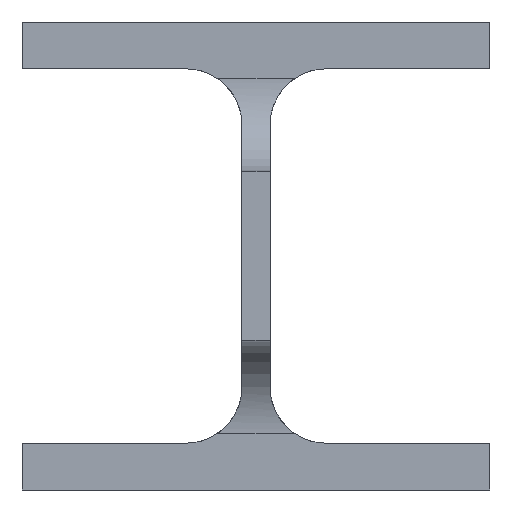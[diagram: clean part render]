
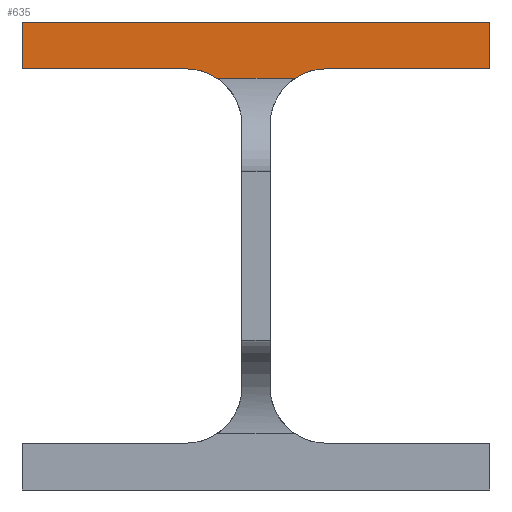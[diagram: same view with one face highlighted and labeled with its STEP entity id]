
A CAD part, front view. The second image highlights one B-rep face of the part: STEP entity #635.
In plain terms, the highlighted planar face has unit normal (0, -1, 0).
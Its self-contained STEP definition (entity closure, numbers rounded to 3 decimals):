
#116 = CARTESIAN_POINT ( 'NONE',  ( -8.367, 52., 5158. ) ) ;
#137 = VECTOR ( 'NONE', #947, 1000. ) ;
#211 = EDGE_CURVE ( 'NONE', #1952, #481, #2245, .T. ) ;
#236 = CARTESIAN_POINT ( 'NONE',  ( 50., 52., 5170. ) ) ;
#248 = PLANE ( 'NONE',  #2399 ) ;
#302 = VECTOR ( 'NONE', #1025, 1000. ) ;
#360 = CIRCLE ( 'NONE', #942, 12. ) ;
#412 = CARTESIAN_POINT ( 'NONE',  ( 6000., 52., 5158. ) ) ;
#446 = CARTESIAN_POINT ( 'NONE',  ( -50., 52., 5160. ) ) ;
#481 = VERTEX_POINT ( 'NONE', #116 ) ;
#488 = FACE_OUTER_BOUND ( 'NONE', #814, .T. ) ;
#635 = ADVANCED_FACE ( 'NONE', ( #488 ), #248, .T. ) ;
#699 = DIRECTION ( 'NONE',  ( 0., 1., 0. ) ) ;
#701 = ORIENTED_EDGE ( 'NONE', *, *, #211, .F. ) ;
#744 = DIRECTION ( 'NONE',  ( 0., 0., 1. ) ) ;
#764 = VERTEX_POINT ( 'NONE', #2483 ) ;
#803 = LINE ( 'NONE', #2508, #1107 ) ;
#814 = EDGE_LOOP ( 'NONE', ( #1135, #701, #1791, #869, #2382, #1235, #2046, #2414 ) ) ;
#828 = CARTESIAN_POINT ( 'NONE',  ( 8.367, 52., 5158. ) ) ;
#869 = ORIENTED_EDGE ( 'NONE', *, *, #2235, .T. ) ;
#902 = VERTEX_POINT ( 'NONE', #1233 ) ;
#942 = AXIS2_PLACEMENT_3D ( 'NONE', #1181, #699, #2012 ) ;
#947 = DIRECTION ( 'NONE',  ( 0., 0., -1. ) ) ;
#992 = EDGE_CURVE ( 'NONE', #1952, #902, #360, .T. ) ;
#1025 = DIRECTION ( 'NONE',  ( -1., 0., 0. ) ) ;
#1053 = EDGE_CURVE ( 'NONE', #1248, #1694, #1538, .T. ) ;
#1056 = DIRECTION ( 'NONE',  ( 1., 0., 0. ) ) ;
#1093 = EDGE_CURVE ( 'NONE', #1694, #764, #1584, .T. ) ;
#1100 = AXIS2_PLACEMENT_3D ( 'NONE', #2185, #2688, #3222 ) ;
#1107 = VECTOR ( 'NONE', #1214, 1000. ) ;
#1135 = ORIENTED_EDGE ( 'NONE', *, *, #1843, .T. ) ;
#1181 = CARTESIAN_POINT ( 'NONE',  ( 15., 52., 5148. ) ) ;
#1214 = DIRECTION ( 'NONE',  ( 1., 0., 0. ) ) ;
#1233 = CARTESIAN_POINT ( 'NONE',  ( 15., 52., 5160. ) ) ;
#1235 = ORIENTED_EDGE ( 'NONE', *, *, #1093, .T. ) ;
#1240 = CARTESIAN_POINT ( 'NONE',  ( 6000., 52., 5170. ) ) ;
#1248 = VERTEX_POINT ( 'NONE', #1911 ) ;
#1277 = DIRECTION ( 'NONE',  ( 0., -1., 0. ) ) ;
#1483 = VECTOR ( 'NONE', #1056, 1000. ) ;
#1518 = CARTESIAN_POINT ( 'NONE',  ( -15., 52., 5160. ) ) ;
#1538 = LINE ( 'NONE', #236, #2236 ) ;
#1580 = LINE ( 'NONE', #446, #137 ) ;
#1584 = LINE ( 'NONE', #3314, #302 ) ;
#1694 = VERTEX_POINT ( 'NONE', #3102 ) ;
#1791 = ORIENTED_EDGE ( 'NONE', *, *, #992, .T. ) ;
#1843 = EDGE_CURVE ( 'NONE', #2277, #481, #3216, .T. ) ;
#1854 = CARTESIAN_POINT ( 'NONE',  ( -50., 52., 5160. ) ) ;
#1911 = CARTESIAN_POINT ( 'NONE',  ( 50., 52., 5160. ) ) ;
#1952 = VERTEX_POINT ( 'NONE', #828 ) ;
#2012 = DIRECTION ( 'NONE',  ( 0., 0., -1. ) ) ;
#2046 = ORIENTED_EDGE ( 'NONE', *, *, #2156, .T. ) ;
#2054 = DIRECTION ( 'NONE',  ( 0., 0., -1. ) ) ;
#2129 = VECTOR ( 'NONE', #3281, 1000. ) ;
#2156 = EDGE_CURVE ( 'NONE', #764, #2330, #1580, .T. ) ;
#2185 = CARTESIAN_POINT ( 'NONE',  ( -15., 52., 5148. ) ) ;
#2196 = EDGE_CURVE ( 'NONE', #2330, #2277, #803, .T. ) ;
#2235 = EDGE_CURVE ( 'NONE', #902, #1248, #3050, .T. ) ;
#2236 = VECTOR ( 'NONE', #744, 1000. ) ;
#2245 = LINE ( 'NONE', #412, #2129 ) ;
#2277 = VERTEX_POINT ( 'NONE', #1518 ) ;
#2330 = VERTEX_POINT ( 'NONE', #1854 ) ;
#2382 = ORIENTED_EDGE ( 'NONE', *, *, #1053, .T. ) ;
#2399 = AXIS2_PLACEMENT_3D ( 'NONE', #1240, #1277, #2054 ) ;
#2414 = ORIENTED_EDGE ( 'NONE', *, *, #2196, .T. ) ;
#2483 = CARTESIAN_POINT ( 'NONE',  ( -50., 52., 5170. ) ) ;
#2508 = CARTESIAN_POINT ( 'NONE',  ( -15., 52., 5160. ) ) ;
#2688 = DIRECTION ( 'NONE',  ( 0., 1., 0. ) ) ;
#3050 = LINE ( 'NONE', #3298, #1483 ) ;
#3102 = CARTESIAN_POINT ( 'NONE',  ( 50., 52., 5170. ) ) ;
#3216 = CIRCLE ( 'NONE', #1100, 12. ) ;
#3222 = DIRECTION ( 'NONE',  ( 0., 0., -1. ) ) ;
#3281 = DIRECTION ( 'NONE',  ( -1., 0., 0. ) ) ;
#3298 = CARTESIAN_POINT ( 'NONE',  ( 50., 52., 5160. ) ) ;
#3314 = CARTESIAN_POINT ( 'NONE',  ( -50., 52., 5170. ) ) ;
